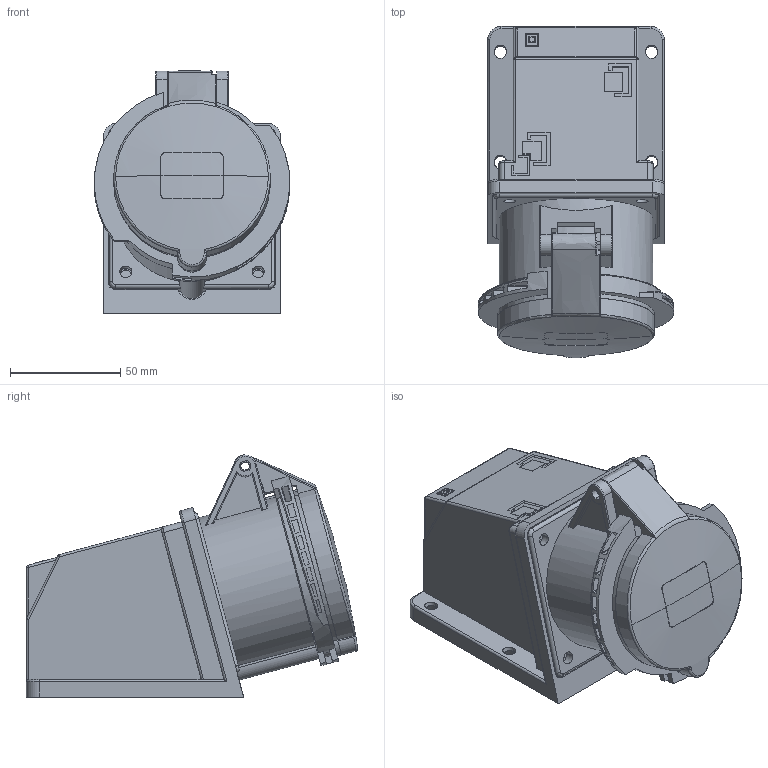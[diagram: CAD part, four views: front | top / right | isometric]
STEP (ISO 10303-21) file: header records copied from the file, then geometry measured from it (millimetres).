
FILE_DESCRIPTION(('FreeCAD Model'),'2;1');
FILE_NAME('Open CASCADE Shape Model','2026-02-04T11:30:55',(''),(''), 'Open CASCADE STEP processor 7.8','FreeCAD','Unknown');
FILE_SCHEMA(('AUTOMOTIVE_DESIGN { 1 0 10303 214 1 1 1 1 }'));
Length unit declared in the file: millimetre
Products named in the file (5): TL3S32453; Tampa; Tomada; Estrutura corpo; Terminais
Assembly tree (4 placements, depth 2):
  TL3S32453
    Tampa
    Tomada
    Estrutura corpo
    Terminais
Bounding box: 88.7 x 150.18 x 109.81 mm (x, y, z)
Volume: 332777.1 mm3; surface area: 136735.6 mm2
Topology: 4 solids, 4 shells, 1224 faces, 3294 edges, 2147 vertices
Faces by surface type: plane 699, cylinder 360, bspline 79, torus 42, sphere 29, cone 15
Full cylindrical faces by diameter (mm): 8.5 x2, 10.5 x1, 11 x2
Entity records: 49997 total; most frequent: CARTESIAN_POINT 19446, ORIENTED_EDGE 6582, DIRECTION 6005, EDGE_CURVE 3291, VERTEX_POINT 2147, LINE 2027, VECTOR 2027, AXIS2_PLACEMENT_3D 1989
